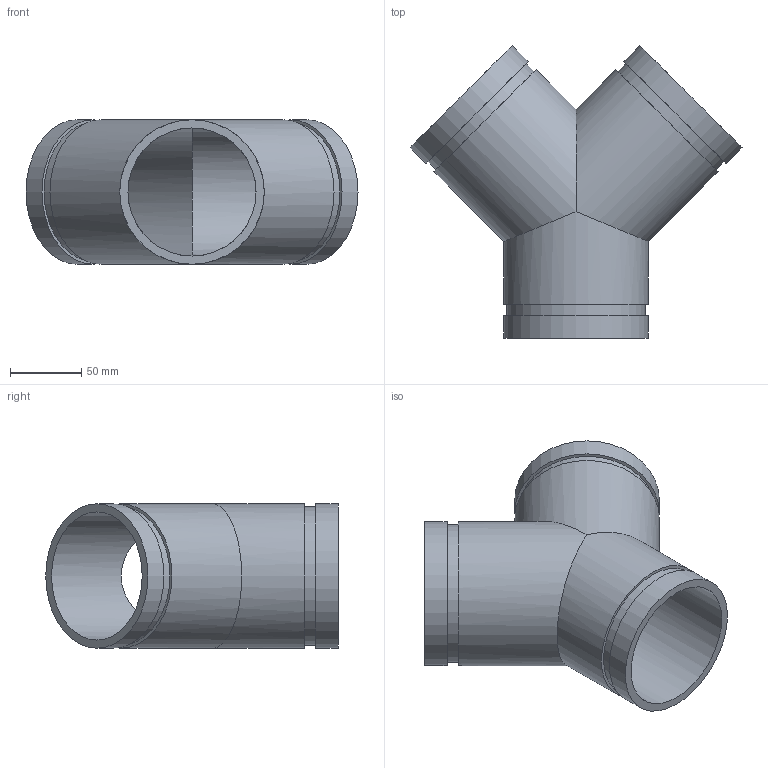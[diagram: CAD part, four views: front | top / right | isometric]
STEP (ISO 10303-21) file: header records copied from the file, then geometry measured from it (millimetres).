
FILE_DESCRIPTION(/* description */ ('This is default description.','CAx-IF Rec.Pracs.---Representation and Presentation of Product Manufacturing Information (PMI)---4.0---2014-10-13'),/* implementation_level */ '2;1');
FILE_NAME(/* name */ 'C:\Users\kkamble\AppData\Roaming\Autodesk\ApplicationPlugins\Back Up\Victaulic_IPS-Tee- Wye_ No 33 SWS (OGS)\Victaulic_IPS-Tee- Wye_ No 33 SWS (OGS)_3.5.stp',/* time_stamp */ '2020-09-16T22:08:09+06:00',/* author */ ('cgray'),/* organization */ ('Victaulic'),/* preprocessor_version */ 'ST-DEVELOPER v17.2',/* originating_system */ 'Autodesk Inventor 2019',/* authorisation */ '');
FILE_SCHEMA (('AP242_MANAGED_MODEL_BASED_3D_ENGINEERING_MIM_LF { 1 0 10303 442 1 1 4 }'));
Length unit declared in the file: inch
Products named in the file (1): 33 SWS-03.5
Bounding box: 233.49 x 205.64 x 101.6 mm (x, y, z)
Volume: 436593.4 mm3; surface area: 166331.8 mm2
Topology: 1 solids, 1 shells, 21 faces, 48 edges, 34 vertices
Faces by surface type: cylinder 12, plane 9
Full cylindrical faces by diameter (mm): 90.119 x3, 97.384 x3, 101.6 x6
Entity records: 787 total; most frequent: DIRECTION 154, CARTESIAN_POINT 121, ORIENTED_EDGE 96, AXIS2_PLACEMENT_3D 71, EDGE_CURVE 48, VERTEX_POINT 34, EDGE_LOOP 30, CIRCLE 26
